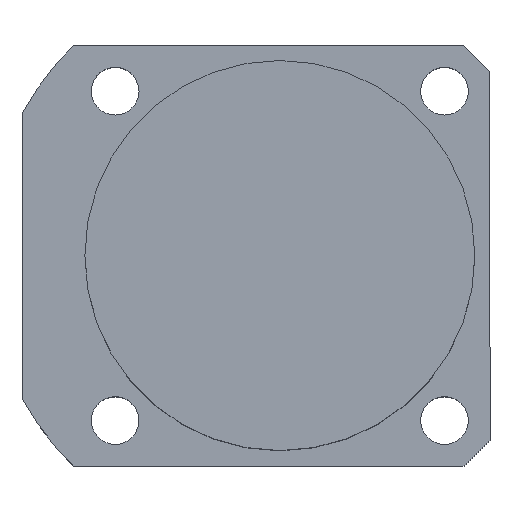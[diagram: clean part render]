
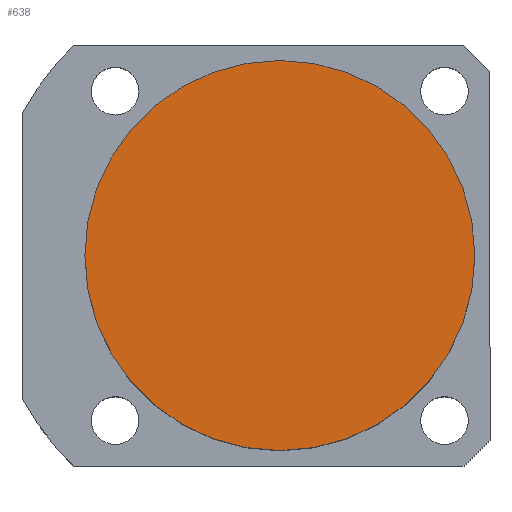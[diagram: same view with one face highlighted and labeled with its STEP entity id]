
A CAD part, top view. The second image highlights one B-rep face of the part: STEP entity #638.
In plain terms, the highlighted planar face has unit normal (0, 0, 1).
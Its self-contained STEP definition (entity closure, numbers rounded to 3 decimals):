
#141 = CARTESIAN_POINT ( 'NONE',  ( -45., 0., 59.5 ) ) ;
#206 = CIRCLE ( 'NONE', #1094, 45. ) ;
#258 = CARTESIAN_POINT ( 'NONE',  ( 45., 0., 59.5 ) ) ;
#369 = CIRCLE ( 'NONE', #420, 45. ) ;
#371 = CARTESIAN_POINT ( 'NONE',  ( 0., 0., 59.5 ) ) ;
#420 = AXIS2_PLACEMENT_3D ( 'NONE', #652, #1849, #947 ) ;
#503 = DIRECTION ( 'NONE',  ( 1., 0., 0. ) ) ;
#517 = CARTESIAN_POINT ( 'NONE',  ( 0., 0., 59.5 ) ) ;
#615 = FACE_OUTER_BOUND ( 'NONE', #1610, .T. ) ;
#638 = ADVANCED_FACE ( 'NONE', ( #615 ), #1723, .T. ) ;
#652 = CARTESIAN_POINT ( 'NONE',  ( 0., 0., 59.5 ) ) ;
#681 = ORIENTED_EDGE ( 'NONE', *, *, #1584, .T. ) ;
#825 = ORIENTED_EDGE ( 'NONE', *, *, #1579, .T. ) ;
#947 = DIRECTION ( 'NONE',  ( 1., 0., 0. ) ) ;
#1094 = AXIS2_PLACEMENT_3D ( 'NONE', #371, #1411, #503 ) ;
#1135 = AXIS2_PLACEMENT_3D ( 'NONE', #517, #1852, #1421 ) ;
#1311 = VERTEX_POINT ( 'NONE', #258 ) ;
#1400 = VERTEX_POINT ( 'NONE', #141 ) ;
#1411 = DIRECTION ( 'NONE',  ( 0., 0., 1. ) ) ;
#1421 = DIRECTION ( 'NONE',  ( 1., 0., 0. ) ) ;
#1579 = EDGE_CURVE ( 'NONE', #1311, #1400, #369, .T. ) ;
#1584 = EDGE_CURVE ( 'NONE', #1400, #1311, #206, .T. ) ;
#1610 = EDGE_LOOP ( 'NONE', ( #681, #825 ) ) ;
#1723 = PLANE ( 'NONE',  #1135 ) ;
#1849 = DIRECTION ( 'NONE',  ( 0., 0., 1. ) ) ;
#1852 = DIRECTION ( 'NONE',  ( 0., 0., 1. ) ) ;
